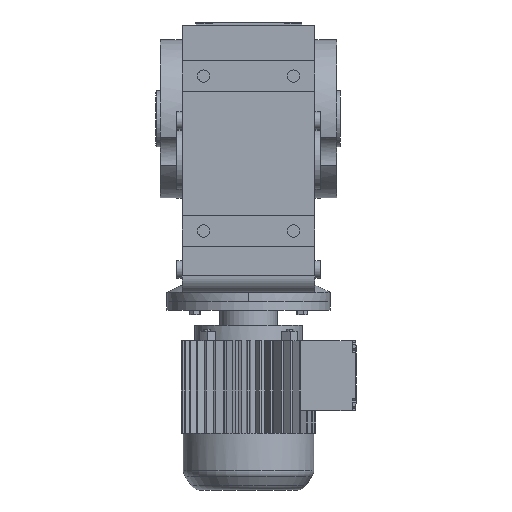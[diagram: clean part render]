
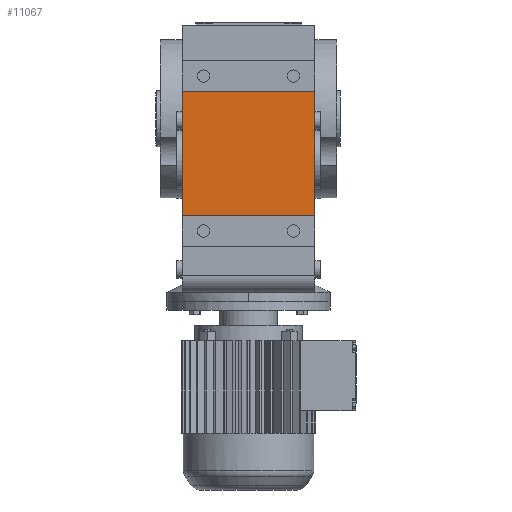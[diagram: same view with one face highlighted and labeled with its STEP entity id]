
A CAD part, front view. The second image highlights one B-rep face of the part: STEP entity #11067.
In plain terms, the highlighted planar face has unit normal (0, -1, 0).
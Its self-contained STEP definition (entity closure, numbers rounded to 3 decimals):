
#2105 = PLANE('',#2106);
#2106 = AXIS2_PLACEMENT_3D('',#2107,#2108,#2109);
#2107 = CARTESIAN_POINT('',(-65.,-119.1,-154.05));
#2108 = DIRECTION('',(-1.,0.,0.));
#2109 = DIRECTION('',(0.,0.,1.));
#5953 = VERTEX_POINT('',#5954);
#5954 = CARTESIAN_POINT('',(-65.,-135.1,-95.));
#5968 = PLANE('',#5969);
#5969 = AXIS2_PLACEMENT_3D('',#5970,#5971,#5972);
#5970 = CARTESIAN_POINT('',(-65.,-135.1,-95.));
#5971 = DIRECTION('',(0.,0.,1.));
#5972 = DIRECTION('',(1.,0.,0.));
#5980 = EDGE_CURVE('',#5981,#5953,#5983,.T.);
#5981 = VERTEX_POINT('',#5982);
#5982 = CARTESIAN_POINT('',(-65.,-135.1,27.));
#5983 = SURFACE_CURVE('',#5984,(#5988,#5995),.PCURVE_S1.);
#5984 = LINE('',#5985,#5986);
#5985 = CARTESIAN_POINT('',(-65.,-135.1,27.));
#5986 = VECTOR('',#5987,1.);
#5987 = DIRECTION('',(0.,0.,-1.));
#5988 = PCURVE('',#2105,#5989);
#5989 = DEFINITIONAL_REPRESENTATION('',(#5990),#5994);
#5990 = LINE('',#5991,#5992);
#5991 = CARTESIAN_POINT('',(181.05,-16.));
#5992 = VECTOR('',#5993,1.);
#5993 = DIRECTION('',(-1.,0.));
#5994 = ( GEOMETRIC_REPRESENTATION_CONTEXT(2) 
PARAMETRIC_REPRESENTATION_CONTEXT() REPRESENTATION_CONTEXT('2D SPACE',''
  ) );
#5995 = PCURVE('',#5996,#6001);
#5996 = PLANE('',#5997);
#5997 = AXIS2_PLACEMENT_3D('',#5998,#5999,#6000);
#5998 = CARTESIAN_POINT('',(-65.,-135.1,27.));
#5999 = DIRECTION('',(0.,-1.,0.));
#6000 = DIRECTION('',(0.,0.,-1.));
#6001 = DEFINITIONAL_REPRESENTATION('',(#6002),#6006);
#6002 = LINE('',#6003,#6004);
#6003 = CARTESIAN_POINT('',(0.,0.));
#6004 = VECTOR('',#6005,1.);
#6005 = DIRECTION('',(1.,0.));
#6006 = ( GEOMETRIC_REPRESENTATION_CONTEXT(2) 
PARAMETRIC_REPRESENTATION_CONTEXT() REPRESENTATION_CONTEXT('2D SPACE',''
  ) );
#6024 = PLANE('',#6025);
#6025 = AXIS2_PLACEMENT_3D('',#6026,#6027,#6028);
#6026 = CARTESIAN_POINT('',(-65.,-135.1,27.));
#6027 = DIRECTION('',(0.,0.,-1.));
#6028 = DIRECTION('',(0.,1.,0.));
#9936 = PLANE('',#9937);
#9937 = AXIS2_PLACEMENT_3D('',#9938,#9939,#9940);
#9938 = CARTESIAN_POINT('',(65.,-119.1,-154.05));
#9939 = DIRECTION('',(-1.,0.,0.));
#9940 = DIRECTION('',(0.,0.,1.));
#11067 = ADVANCED_FACE('',(#11068),#5996,.T.);
#11068 = FACE_BOUND('',#11069,.T.);
#11069 = EDGE_LOOP('',(#11070,#11093,#11116,#11137));
#11070 = ORIENTED_EDGE('',*,*,#11071,.T.);
#11071 = EDGE_CURVE('',#5953,#11072,#11074,.T.);
#11072 = VERTEX_POINT('',#11073);
#11073 = CARTESIAN_POINT('',(65.,-135.1,-95.));
#11074 = SURFACE_CURVE('',#11075,(#11079,#11086),.PCURVE_S1.);
#11075 = LINE('',#11076,#11077);
#11076 = CARTESIAN_POINT('',(-65.,-135.1,-95.));
#11077 = VECTOR('',#11078,1.);
#11078 = DIRECTION('',(1.,0.,0.));
#11079 = PCURVE('',#5996,#11080);
#11080 = DEFINITIONAL_REPRESENTATION('',(#11081),#11085);
#11081 = LINE('',#11082,#11083);
#11082 = CARTESIAN_POINT('',(122.,0.));
#11083 = VECTOR('',#11084,1.);
#11084 = DIRECTION('',(0.,1.));
#11085 = ( GEOMETRIC_REPRESENTATION_CONTEXT(2) 
PARAMETRIC_REPRESENTATION_CONTEXT() REPRESENTATION_CONTEXT('2D SPACE',''
  ) );
#11086 = PCURVE('',#5968,#11087);
#11087 = DEFINITIONAL_REPRESENTATION('',(#11088),#11092);
#11088 = LINE('',#11089,#11090);
#11089 = CARTESIAN_POINT('',(0.,0.));
#11090 = VECTOR('',#11091,1.);
#11091 = DIRECTION('',(1.,0.));
#11092 = ( GEOMETRIC_REPRESENTATION_CONTEXT(2) 
PARAMETRIC_REPRESENTATION_CONTEXT() REPRESENTATION_CONTEXT('2D SPACE',''
  ) );
#11093 = ORIENTED_EDGE('',*,*,#11094,.F.);
#11094 = EDGE_CURVE('',#11095,#11072,#11097,.T.);
#11095 = VERTEX_POINT('',#11096);
#11096 = CARTESIAN_POINT('',(65.,-135.1,27.));
#11097 = SURFACE_CURVE('',#11098,(#11102,#11109),.PCURVE_S1.);
#11098 = LINE('',#11099,#11100);
#11099 = CARTESIAN_POINT('',(65.,-135.1,27.));
#11100 = VECTOR('',#11101,1.);
#11101 = DIRECTION('',(0.,0.,-1.));
#11102 = PCURVE('',#5996,#11103);
#11103 = DEFINITIONAL_REPRESENTATION('',(#11104),#11108);
#11104 = LINE('',#11105,#11106);
#11105 = CARTESIAN_POINT('',(0.,130.));
#11106 = VECTOR('',#11107,1.);
#11107 = DIRECTION('',(1.,0.));
#11108 = ( GEOMETRIC_REPRESENTATION_CONTEXT(2) 
PARAMETRIC_REPRESENTATION_CONTEXT() REPRESENTATION_CONTEXT('2D SPACE',''
  ) );
#11109 = PCURVE('',#9936,#11110);
#11110 = DEFINITIONAL_REPRESENTATION('',(#11111),#11115);
#11111 = LINE('',#11112,#11113);
#11112 = CARTESIAN_POINT('',(181.05,-16.));
#11113 = VECTOR('',#11114,1.);
#11114 = DIRECTION('',(-1.,0.));
#11115 = ( GEOMETRIC_REPRESENTATION_CONTEXT(2) 
PARAMETRIC_REPRESENTATION_CONTEXT() REPRESENTATION_CONTEXT('2D SPACE',''
  ) );
#11116 = ORIENTED_EDGE('',*,*,#11117,.F.);
#11117 = EDGE_CURVE('',#5981,#11095,#11118,.T.);
#11118 = SURFACE_CURVE('',#11119,(#11123,#11130),.PCURVE_S1.);
#11119 = LINE('',#11120,#11121);
#11120 = CARTESIAN_POINT('',(-65.,-135.1,27.));
#11121 = VECTOR('',#11122,1.);
#11122 = DIRECTION('',(1.,0.,0.));
#11123 = PCURVE('',#5996,#11124);
#11124 = DEFINITIONAL_REPRESENTATION('',(#11125),#11129);
#11125 = LINE('',#11126,#11127);
#11126 = CARTESIAN_POINT('',(0.,0.));
#11127 = VECTOR('',#11128,1.);
#11128 = DIRECTION('',(0.,1.));
#11129 = ( GEOMETRIC_REPRESENTATION_CONTEXT(2) 
PARAMETRIC_REPRESENTATION_CONTEXT() REPRESENTATION_CONTEXT('2D SPACE',''
  ) );
#11130 = PCURVE('',#6024,#11131);
#11131 = DEFINITIONAL_REPRESENTATION('',(#11132),#11136);
#11132 = LINE('',#11133,#11134);
#11133 = CARTESIAN_POINT('',(0.,0.));
#11134 = VECTOR('',#11135,1.);
#11135 = DIRECTION('',(0.,1.));
#11136 = ( GEOMETRIC_REPRESENTATION_CONTEXT(2) 
PARAMETRIC_REPRESENTATION_CONTEXT() REPRESENTATION_CONTEXT('2D SPACE',''
  ) );
#11137 = ORIENTED_EDGE('',*,*,#5980,.T.);
